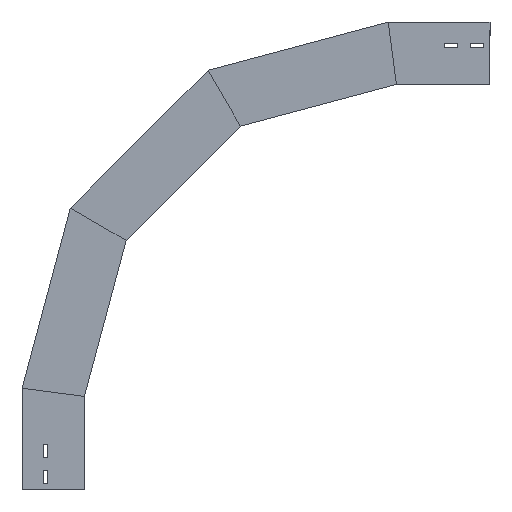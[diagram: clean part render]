
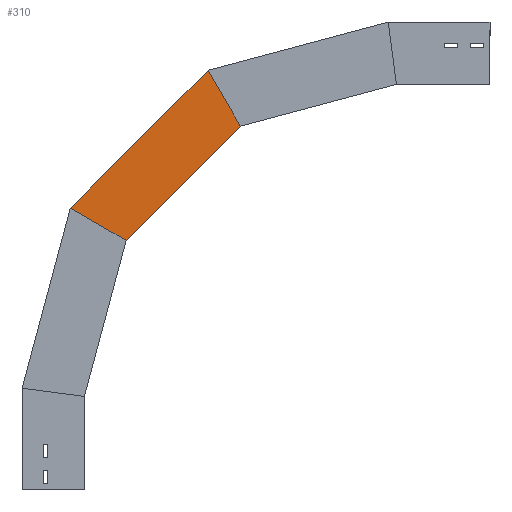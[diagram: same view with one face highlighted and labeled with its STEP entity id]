
A CAD part, left-side view. The second image highlights one B-rep face of the part: STEP entity #310.
In plain terms, the highlighted planar face has unit normal (-1, 0, 0) as drawn and (1, 0, 0) by its records, which use the part's own axes.
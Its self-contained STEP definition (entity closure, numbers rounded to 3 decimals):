
#71 = LINE ( 'NONE', #1220, #1438 ) ;
#135 = VECTOR ( 'NONE', #821, 1000. ) ;
#138 = CARTESIAN_POINT ( 'NONE',  ( 0., -198.411, 672.973 ) ) ;
#165 = PLANE ( 'NONE',  #835 ) ;
#228 = CARTESIAN_POINT ( 'NONE',  ( 0., -128.356, 364.771 ) ) ;
#251 = DIRECTION ( 'NONE',  ( 0., -0.707, 0.707 ) ) ;
#310 = ADVANCED_FACE ( 'NONE', ( #764 ), #165, .T. ) ;
#351 = EDGE_CURVE ( 'NONE', #750, #1845, #71, .T. ) ;
#488 = ORIENTED_EDGE ( 'NONE', *, *, #811, .T. ) ;
#551 = CARTESIAN_POINT ( 'NONE',  ( 0., -250.175, 583.315 ) ) ;
#557 = VERTEX_POINT ( 'NONE', #1153 ) ;
#559 = LINE ( 'NONE', #1723, #1829 ) ;
#750 = VERTEX_POINT ( 'NONE', #138 ) ;
#756 = DIRECTION ( 'NONE',  ( 0., 0., -1. ) ) ;
#764 = FACE_OUTER_BOUND ( 'NONE', #1382, .T. ) ;
#780 = VECTOR ( 'NONE', #782, 1000. ) ;
#782 = DIRECTION ( 'NONE',  ( 0., -0.707, 0.707 ) ) ;
#808 = LINE ( 'NONE', #228, #135 ) ;
#811 = EDGE_CURVE ( 'NONE', #985, #750, #919, .T. ) ;
#816 = DIRECTION ( 'NONE',  ( 0., -0.5, -0.866 ) ) ;
#821 = DIRECTION ( 'NONE',  ( 0., -0.866, -0.5 ) ) ;
#835 = AXIS2_PLACEMENT_3D ( 'NONE', #1452, #1801, #756 ) ;
#889 = ORIENTED_EDGE ( 'NONE', *, *, #351, .T. ) ;
#909 = EDGE_CURVE ( 'NONE', #557, #1845, #559, .T. ) ;
#919 = LINE ( 'NONE', #1219, #780 ) ;
#985 = VERTEX_POINT ( 'NONE', #1413 ) ;
#1153 = CARTESIAN_POINT ( 'NONE',  ( 0., -67.034, 400.175 ) ) ;
#1219 = CARTESIAN_POINT ( 'NONE',  ( 0., 24.589, 449.973 ) ) ;
#1220 = CARTESIAN_POINT ( 'NONE',  ( 0., -287.519, 518.633 ) ) ;
#1333 = ORIENTED_EDGE ( 'NONE', *, *, #909, .F. ) ;
#1382 = EDGE_LOOP ( 'NONE', ( #488, #889, #1333, #1542 ) ) ;
#1412 = EDGE_CURVE ( 'NONE', #985, #557, #808, .T. ) ;
#1413 = CARTESIAN_POINT ( 'NONE',  ( 0., 22.623, 451.939 ) ) ;
#1438 = VECTOR ( 'NONE', #816, 1000. ) ;
#1452 = CARTESIAN_POINT ( 'NONE',  ( 0., -46.122, 379.263 ) ) ;
#1542 = ORIENTED_EDGE ( 'NONE', *, *, #1412, .F. ) ;
#1723 = CARTESIAN_POINT ( 'NONE',  ( 0., -46.122, 379.263 ) ) ;
#1801 = DIRECTION ( 'NONE',  ( 1., 0., 0. ) ) ;
#1829 = VECTOR ( 'NONE', #251, 1000. ) ;
#1845 = VERTEX_POINT ( 'NONE', #551 ) ;
